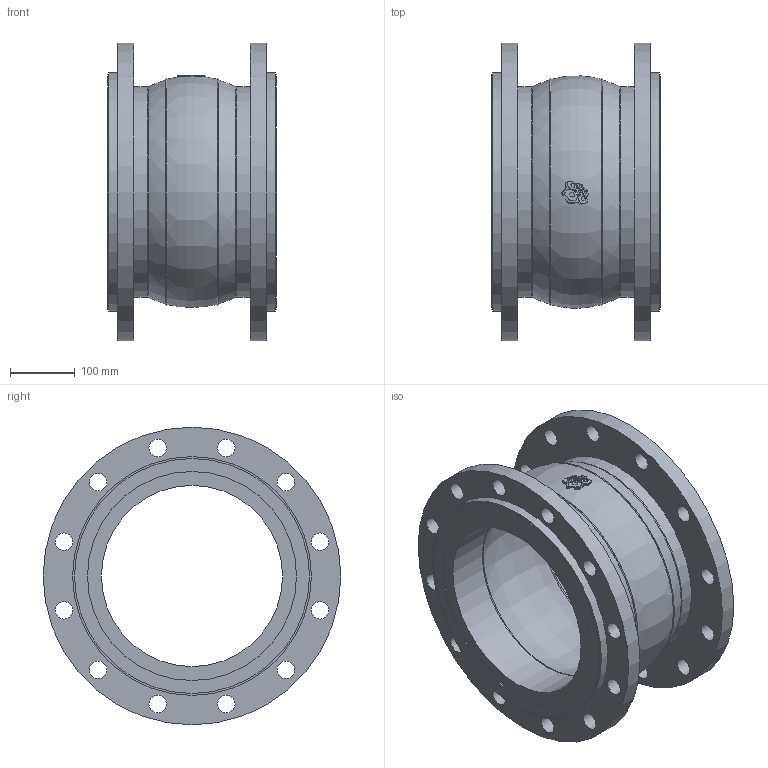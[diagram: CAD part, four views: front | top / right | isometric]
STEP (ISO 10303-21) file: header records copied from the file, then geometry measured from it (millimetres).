
FILE_DESCRIPTION(('STEP AP203'), '1');
FILE_NAME('3D_501-300-EPDM-FF', '', ('UNSPECIFIED'), ('UNSPECIFIED'), 'C3D Converter', 'C3D Toolkit', '');
FILE_SCHEMA(('CONFIG_CONTROL_DESIGN'));
Length unit declared in the file: millimetre
Bounding box: 260 x 460 x 460 mm (x, y, z)
Volume: 10342271.2 mm3; surface area: 952280.4 mm2
Topology: 1 solids, 1 shells, 883 faces, 2596 edges, 1737 vertices
Faces by surface type: plane 831, cylinder 36, torus 16
Full cylindrical faces by diameter (mm): 27 x24, 280 x2, 323 x2, 325 x2, 363 x2, 369 x2, 460 x2
Entity records: 37831 total; most frequent: CARTESIAN_POINT 8783, ORIENTED_EDGE 5100, DIRECTION 3618, EDGE_CURVE 2550, VERTEX_POINT 1737, LINE 1626, VECTOR 1626, EDGE_LOOP 1001
